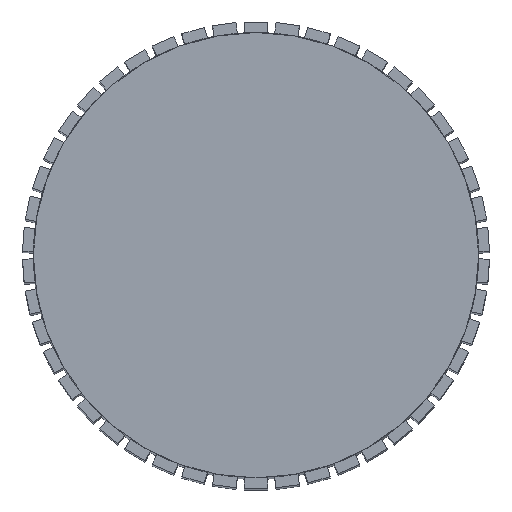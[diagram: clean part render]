
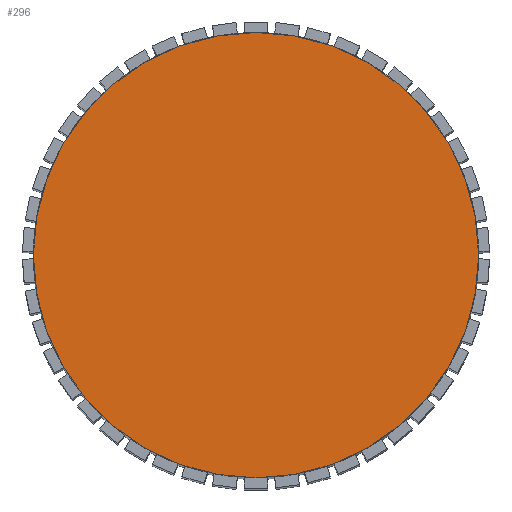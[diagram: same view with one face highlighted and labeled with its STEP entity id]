
A CAD part, top view. The second image highlights one B-rep face of the part: STEP entity #296.
In plain terms, the highlighted planar face has unit normal (0, 0, 1).
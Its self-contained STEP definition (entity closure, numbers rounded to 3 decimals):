
#296=ADVANCED_FACE('',(#608),#5070,.T.);
#608=FACE_OUTER_BOUND('',#920,.T.);
#920=EDGE_LOOP('',(#1994,#1995));
#1994=ORIENTED_EDGE('',*,*,#3332,.F.);
#1995=ORIENTED_EDGE('',*,*,#3160,.F.);
#3160=EDGE_CURVE('',#4649,#4749,#3466,.T.);
#3332=EDGE_CURVE('',#4749,#4649,#3499,.T.);
#3466=TRIMMED_CURVE($,#3601,(#8602),(#8603),.T.,.CARTESIAN.);
#3499=TRIMMED_CURVE($,#3634,(#9190),(#9191),.T.,.CARTESIAN.);
#3601=CIRCLE('',#5547,95.);
#3634=CIRCLE('',#5580,95.);
#4649=VERTEX_POINT('',#6972);
#4749=VERTEX_POINT('',#7072);
#5070=PLANE('',#5456);
#5456=AXIS2_PLACEMENT_3D('',#6463,#5892,$);
#5547=AXIS2_PLACEMENT_3D($,#8601,#6069,#6070);
#5580=AXIS2_PLACEMENT_3D($,#9189,#6135,#6136);
#5892=DIRECTION('',(0.,0.,1.));
#6069=DIRECTION('',(0.,0.,-1.));
#6070=DIRECTION('',(-1.,0.,0.));
#6135=DIRECTION('',(0.,0.,-1.));
#6136=DIRECTION('',(1.,0.,0.));
#6463=CARTESIAN_POINT('',(21149.428,188.621,-4486.146));
#6972=CARTESIAN_POINT('',(21173.178,69.871,-4486.146));
#7072=CARTESIAN_POINT('',(21363.178,69.871,-4486.146));
#8601=CARTESIAN_POINT('',(21268.178,69.871,-4486.146));
#8602=CARTESIAN_POINT('',(21173.178,69.871,-4486.146));
#8603=CARTESIAN_POINT('',(21363.178,69.871,-4486.146));
#9189=CARTESIAN_POINT('',(21268.178,69.871,-4486.146));
#9190=CARTESIAN_POINT('',(21363.178,69.871,-4486.146));
#9191=CARTESIAN_POINT('',(21173.178,69.871,-4486.146));
